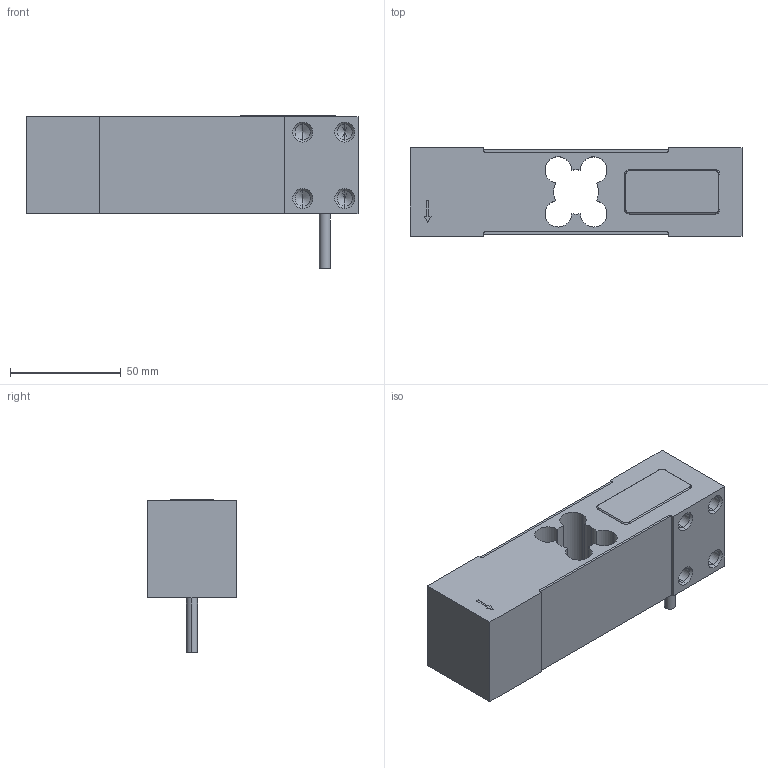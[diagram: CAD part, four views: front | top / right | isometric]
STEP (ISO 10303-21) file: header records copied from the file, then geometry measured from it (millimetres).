
FILE_DESCRIPTION (( 'STEP AP214' ), '1' );
FILE_NAME ('L6E3 assembly.STEP', '2022-07-26T09:31:10', ( '' ), ( '' ), 'SwSTEP 2.0', 'SolidWorks 2021', '' );
FILE_SCHEMA (( 'AUTOMOTIVE_DESIGN' ));
Length unit declared in the file: millimetre
Products named in the file (5): Silicon layer; Cable; Silicon layer2; 200kg element L6E3; L6E3 assembly
Assembly tree (5 placements, depth 2):
  L6E3 assembly
    200kg element L6E3
    Silicon layer  x2
    Silicon layer2
    Cable
Bounding box: 150 x 40 x 69.15 mm (x, y, z)
Volume: 219655.1 mm3; surface area: 56202.5 mm2
Topology: 5 solids, 5 shells, 144 faces, 348 edges, 207 vertices
Faces by surface type: cylinder 55, plane 47, cone 36, torus 6
Entity records: 4220 total; most frequent: DIRECTION 730, CARTESIAN_POINT 651, ORIENTED_EDGE 624, EDGE_CURVE 312, AXIS2_PLACEMENT_3D 274, VERTEX_POINT 195, LINE 182, VECTOR 182
